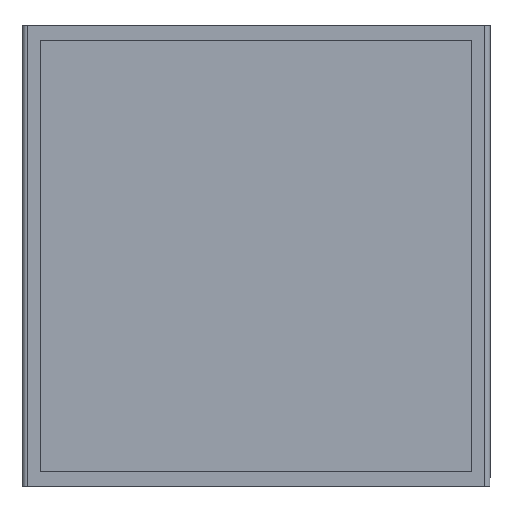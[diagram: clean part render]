
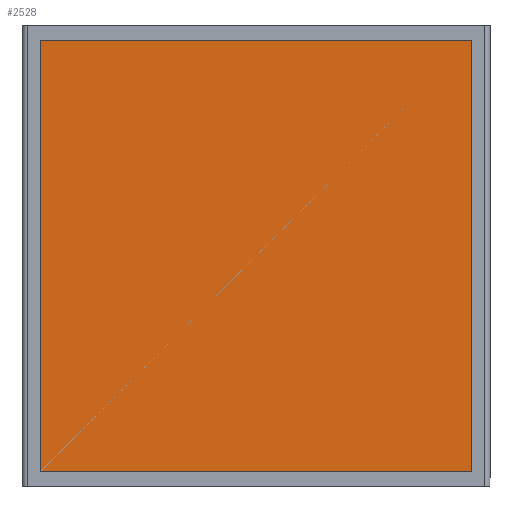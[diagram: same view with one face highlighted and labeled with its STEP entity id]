
A CAD part, front view. The second image highlights one B-rep face of the part: STEP entity #2528.
In plain terms, the highlighted planar face has unit normal (0, -1, 0).
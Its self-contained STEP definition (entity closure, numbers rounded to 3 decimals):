
#74 = ORIENTED_EDGE ( 'NONE', *, *, #118, .F. ) ;
#118 = EDGE_CURVE ( 'NONE', #2231, #400, #3092, .T. ) ;
#158 = VERTEX_POINT ( 'NONE', #2298 ) ;
#400 = VERTEX_POINT ( 'NONE', #3754 ) ;
#444 = CARTESIAN_POINT ( 'NONE',  ( -11.919, -3.447, -7.477 ) ) ;
#729 = VECTOR ( 'NONE', #4128, 1000. ) ;
#751 = CARTESIAN_POINT ( 'NONE',  ( 9.081, -3.447, -7.477 ) ) ;
#846 = DIRECTION ( 'NONE',  ( 0., 0., 1. ) ) ;
#907 = CARTESIAN_POINT ( 'NONE',  ( 9.081, -3.447, -7.477 ) ) ;
#1369 = VECTOR ( 'NONE', #4815, 1000. ) ;
#1902 = CARTESIAN_POINT ( 'NONE',  ( -11.919, -3.447, -7.477 ) ) ;
#1964 = VERTEX_POINT ( 'NONE', #751 ) ;
#1970 = DIRECTION ( 'NONE',  ( 0., 0., 1. ) ) ;
#2224 = PLANE ( 'NONE',  #4803 ) ;
#2231 = VERTEX_POINT ( 'NONE', #2625 ) ;
#2251 = ORIENTED_EDGE ( 'NONE', *, *, #4315, .F. ) ;
#2298 = CARTESIAN_POINT ( 'NONE',  ( 9.081, -3.447, 13.523 ) ) ;
#2316 = VECTOR ( 'NONE', #1970, 1000. ) ;
#2471 = LINE ( 'NONE', #907, #1369 ) ;
#2528 = ADVANCED_FACE ( 'NONE', ( #3078 ), #2224, .F. ) ;
#2625 = CARTESIAN_POINT ( 'NONE',  ( -11.919, -3.447, -7.477 ) ) ;
#2655 = LINE ( 'NONE', #4148, #729 ) ;
#2717 = DIRECTION ( 'NONE',  ( -1., 0., 0. ) ) ;
#3078 = FACE_OUTER_BOUND ( 'NONE', #3601, .T. ) ;
#3092 = LINE ( 'NONE', #444, #2316 ) ;
#3112 = LINE ( 'NONE', #1902, #3974 ) ;
#3206 = DIRECTION ( 'NONE',  ( 0., 1., 0. ) ) ;
#3601 = EDGE_LOOP ( 'NONE', ( #74, #4647, #4378, #2251 ) ) ;
#3754 = CARTESIAN_POINT ( 'NONE',  ( -11.919, -3.447, 13.523 ) ) ;
#3974 = VECTOR ( 'NONE', #2717, 1000. ) ;
#4128 = DIRECTION ( 'NONE',  ( 1., 0., 0. ) ) ;
#4148 = CARTESIAN_POINT ( 'NONE',  ( -11.919, -3.447, 13.523 ) ) ;
#4201 = EDGE_CURVE ( 'NONE', #158, #1964, #2471, .T. ) ;
#4308 = CARTESIAN_POINT ( 'NONE',  ( -11.919, -3.447, 13.523 ) ) ;
#4315 = EDGE_CURVE ( 'NONE', #400, #158, #2655, .T. ) ;
#4368 = EDGE_CURVE ( 'NONE', #1964, #2231, #3112, .T. ) ;
#4378 = ORIENTED_EDGE ( 'NONE', *, *, #4201, .F. ) ;
#4647 = ORIENTED_EDGE ( 'NONE', *, *, #4368, .F. ) ;
#4803 = AXIS2_PLACEMENT_3D ( 'NONE', #4308, #3206, #846 ) ;
#4815 = DIRECTION ( 'NONE',  ( 0., 0., -1. ) ) ;
